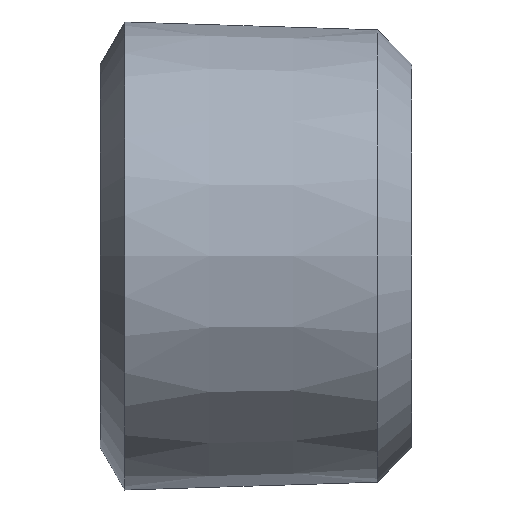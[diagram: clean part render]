
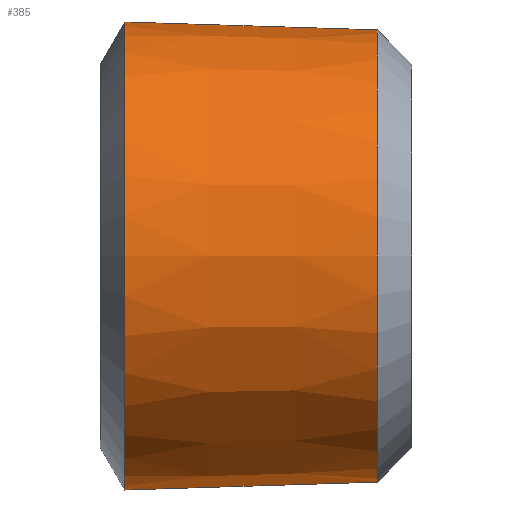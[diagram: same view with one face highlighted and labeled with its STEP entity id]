
A CAD part, left-side view. The second image highlights one B-rep face of the part: STEP entity #385.
In plain terms, the highlighted conical face has half-angle 1.788 degrees and reference radius 10.722 mm.
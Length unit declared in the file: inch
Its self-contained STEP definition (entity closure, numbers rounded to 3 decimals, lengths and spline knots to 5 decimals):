
#27 = VERTEX_POINT ( 'NONE', #730 ) ;
#39 = VERTEX_POINT ( 'NONE', #172 ) ;
#62 = EDGE_CURVE ( 'NONE', #27, #39, #362, .T. ) ;
#79 = VERTEX_POINT ( 'NONE', #549 ) ;
#80 = DIRECTION ( 'NONE',  ( 0., 0., 1. ) ) ;
#87 = DIRECTION ( 'NONE',  ( 0., 1., 0. ) ) ;
#90 = CARTESIAN_POINT ( 'NONE',  ( 0., -0.04398, 0.42213 ) ) ;
#130 = EDGE_LOOP ( 'NONE', ( #388, #514, #458, #646 ) ) ;
#148 = CARTESIAN_POINT ( 'NONE',  ( 0., -0.04398, 0. ) ) ;
#172 = CARTESIAN_POINT ( 'NONE',  ( 0., -0.50007, 0.40789 ) ) ;
#216 = LINE ( 'NONE', #518, #650 ) ;
#239 = DIRECTION ( 'NONE',  ( 0., 0., 1. ) ) ;
#310 = CIRCLE ( 'NONE', #521, 0.42213 ) ;
#312 = EDGE_CURVE ( 'NONE', #761, #79, #310, .T. ) ;
#337 = DIRECTION ( 'NONE',  ( 0., 0., 1. ) ) ;
#346 = CARTESIAN_POINT ( 'NONE',  ( 0., -0.04398, -0.42213 ) ) ;
#362 = CIRCLE ( 'NONE', #380, 0.40789 ) ;
#380 = AXIS2_PLACEMENT_3D ( 'NONE', #555, #618, #239 ) ;
#381 = AXIS2_PLACEMENT_3D ( 'NONE', #450, #781, #337 ) ;
#385 = ADVANCED_FACE ( 'NONE', ( #408 ), #728, .T. ) ;
#388 = ORIENTED_EDGE ( 'NONE', *, *, #617, .F. ) ;
#399 = LINE ( 'NONE', #90, #764 ) ;
#408 = FACE_OUTER_BOUND ( 'NONE', #130, .T. ) ;
#433 = EDGE_CURVE ( 'NONE', #39, #79, #399, .T. ) ;
#450 = CARTESIAN_POINT ( 'NONE',  ( 0., -0.04398, 0. ) ) ;
#458 = ORIENTED_EDGE ( 'NONE', *, *, #433, .T. ) ;
#514 = ORIENTED_EDGE ( 'NONE', *, *, #62, .T. ) ;
#518 = CARTESIAN_POINT ( 'NONE',  ( 0., -0.04398, -0.42213 ) ) ;
#521 = AXIS2_PLACEMENT_3D ( 'NONE', #148, #87, #80 ) ;
#545 = DIRECTION ( 'NONE',  ( 0., 1., 0.031 ) ) ;
#549 = CARTESIAN_POINT ( 'NONE',  ( 0., -0.04398, 0.42213 ) ) ;
#555 = CARTESIAN_POINT ( 'NONE',  ( 0., -0.50007, 0. ) ) ;
#617 = EDGE_CURVE ( 'NONE', #27, #761, #216, .T. ) ;
#618 = DIRECTION ( 'NONE',  ( 0., 1., 0. ) ) ;
#646 = ORIENTED_EDGE ( 'NONE', *, *, #312, .F. ) ;
#648 = DIRECTION ( 'NONE',  ( 0., 1., -0.031 ) ) ;
#650 = VECTOR ( 'NONE', #648, 39.37008 ) ;
#728 = CONICAL_SURFACE ( 'NONE', #381, 0.42213, 0.031 ) ;
#730 = CARTESIAN_POINT ( 'NONE',  ( 0., -0.50007, -0.40789 ) ) ;
#761 = VERTEX_POINT ( 'NONE', #346 ) ;
#764 = VECTOR ( 'NONE', #545, 39.37008 ) ;
#781 = DIRECTION ( 'NONE',  ( 0., 1., 0. ) ) ;
